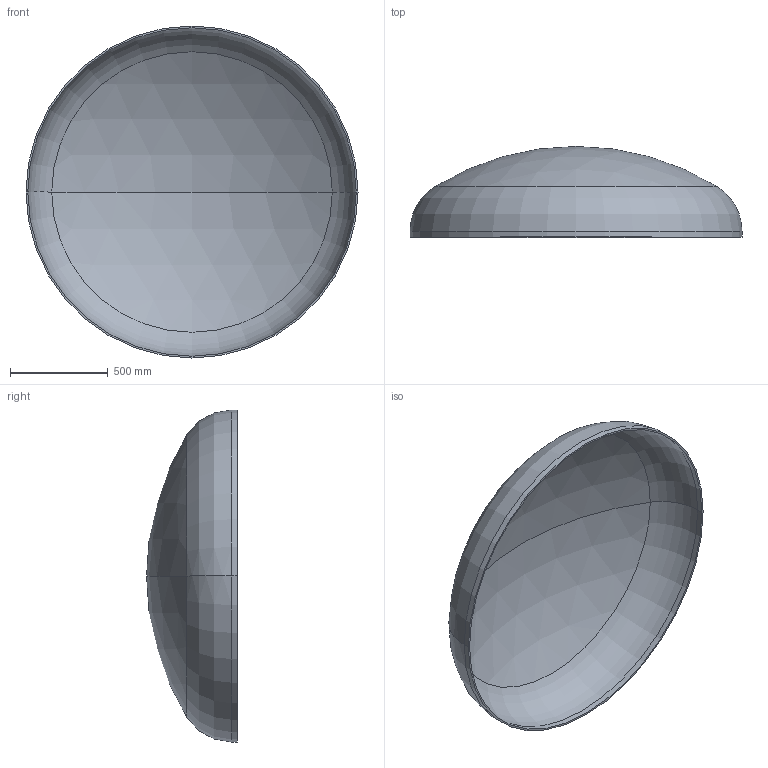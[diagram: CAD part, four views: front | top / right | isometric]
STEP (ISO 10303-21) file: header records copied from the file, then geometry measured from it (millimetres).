
FILE_DESCRIPTION (( 'STEP AP203' ), '1' );
FILE_NAME ('DIN 28013 Korbbogenform_-_Boden DIN 28013 - 1700 x 30 - I - s=9.step', '2016-07-01T11:36:13', ( '' ), ( '' ), 'SwSTEP 2.0', 'SolidWorks 2013', '' );
FILE_SCHEMA (( 'CONFIG_CONTROL_DESIGN' ));
Length unit declared in the file: millimetre
Products named in the file (1): DIN 28013 Korbbogenform_-_Boden DIN 28013 - 1700 x 30 - I - s=9
Bounding box: 1700 x 464.96 x 1700 mm (x, y, z)
Volume: 29493031.1 mm3; surface area: 6601985.9 mm2
Topology: 1 solids, 1 shells, 13 faces, 24 edges, 14 vertices
Faces by surface type: torus 4, cylinder 4, sphere 4, plane 1
Entity records: 407 total; most frequent: DIRECTION 72, CARTESIAN_POINT 52, ORIENTED_EDGE 48, AXIS2_PLACEMENT_3D 34, EDGE_CURVE 24, CIRCLE 20, VERTEX_POINT 14, EDGE_LOOP 14
